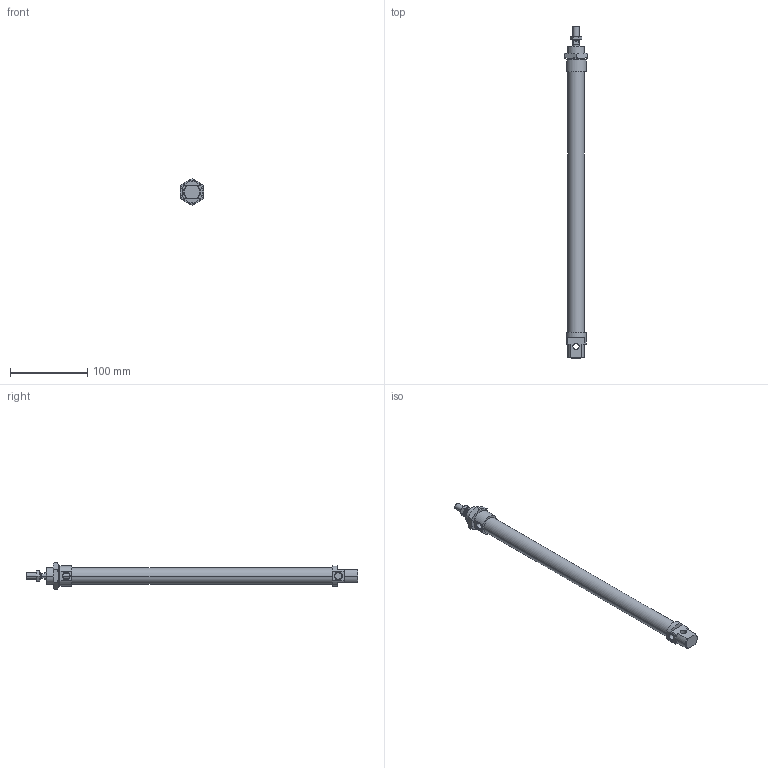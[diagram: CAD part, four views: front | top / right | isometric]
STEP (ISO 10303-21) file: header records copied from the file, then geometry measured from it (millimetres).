
FILE_DESCRIPTION((''),'2;1');
FILE_NAME('I:\DOC-EDP\Lib-3d\1200\CILINDRI\1280\1280_20_0300.stp','2003-04-07T17:58:34',('maffial1'),(''),'Autodesk Inventor (R) 6.0','Autodesk Inventor (R) 6.0','');
FILE_SCHEMA(('AUTOMOTIVE_DESIGN { 1 0 10303 214 1 1 1 1 }'));
Length unit declared in the file: millimetre
Products named in the file (5): 1280_20_0300; S1280_20_300; 1200_20_05; 1200_20_06; C1280_20_300
Assembly tree (4 placements, depth 2):
  1280_20_0300
    S1280_20_300
    1200_20_05
    1200_20_06
    C1280_20_300
Bounding box: 30 x 430 x 34.64 mm (x, y, z)
Volume: 150253.5 mm3; surface area: 49591.6 mm2
Topology: 4 solids, 4 shells, 124 faces, 281 edges, 170 vertices
Faces by surface type: plane 41, cone 40, cylinder 22, bspline 21
Entity records: 3816 total; most frequent: CARTESIAN_POINT 1039, DIRECTION 573, ORIENTED_EDGE 562, EDGE_CURVE 281, AXIS2_PLACEMENT_3D 236, VERTEX_POINT 170, EDGE_LOOP 137, FACE_OUTER_BOUND 124
